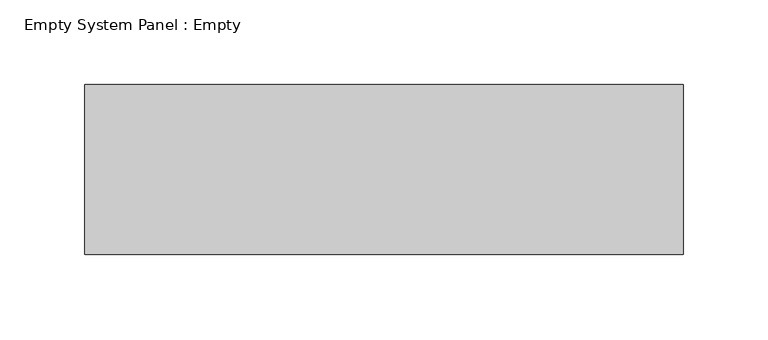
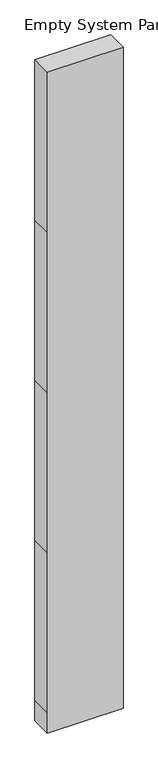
"""IFC4 building model written with IfcOpenShell, lengths in millimetres: plate geometry, Empty System Panel : Empty."""

from ifc_helpers import new_model, si_unit, frame, origin, place, context, project, spatial, polyline, outline, extrude, source, transform, mapped, element, save


def empty_system_panel_empty_db9f2a2a(model_context):
    return source(origin(), model_context, "Body", "SweptSolid", [
        extrude(outline(polyline([(0.0, -176.25), (0.0, 176.25), (100.0, 176.25), (887.95, 176.25), (1675.9, 176.25), (2463.85, 176.25), (3251.8, 176.25), (3251.8, -176.25), (2463.85, -176.25), (1675.9, -176.25), (887.95, -176.25), (100.0, -176.25), (0.0, -176.25)])), frame((0.0, -50.0, 0.0), z_axis=(0.0, 1.0, 0.0), x_axis=(0.0, 0.0, 1.0)), (0.0, 0.0, 1.0), 100.0),
    ])


if __name__ == "__main__":
    model = new_model("IFC4")
    model_context = context("Model", 3, world=origin())
    ifc_project = project(units=[si_unit("LENGTHUNIT", "METRE", prefix="MILLI")], contexts=[model_context])
    site = spatial("IfcSite", under=ifc_project)
    building = spatial("IfcBuilding", under=site)
    placement = place(None, origin())
    empty_system_panel_empty_shape = empty_system_panel_empty_db9f2a2a(model_context)
    element("IfcPlate", 1, ObjectType="Empty System Panel : Empty", at=placement, inside=building, context=model_context, shape_type="MappedRepresentation", body=[
        mapped(empty_system_panel_empty_shape, transform((0.0, 0.0, 0.0), x_axis=(1.0, 0.0, 0.0), y_axis=(0.0, 1.0, 0.0), z_axis=(0.0, 0.0, 1.0))),
    ])
    save(model, "model.ifc")
